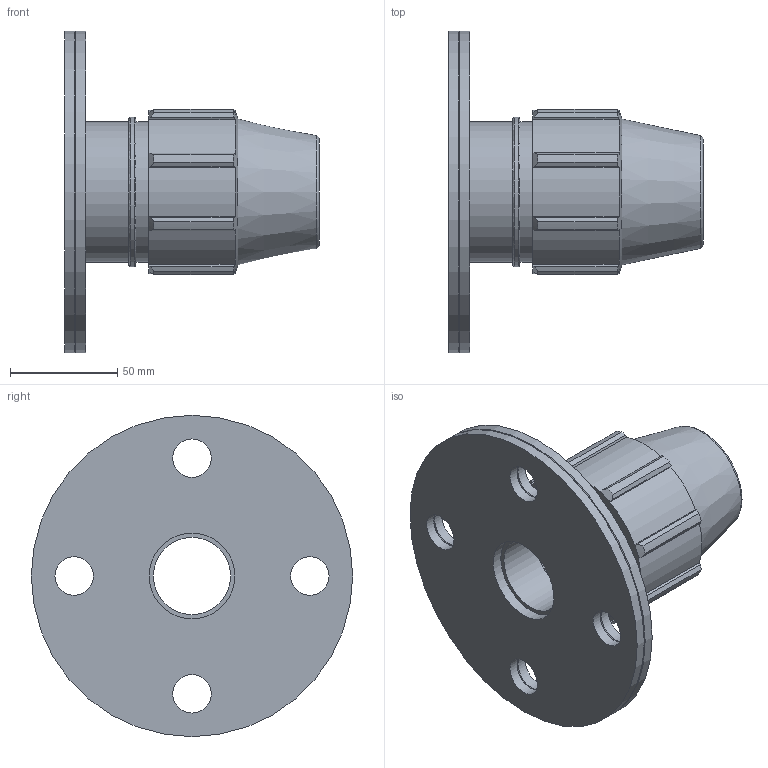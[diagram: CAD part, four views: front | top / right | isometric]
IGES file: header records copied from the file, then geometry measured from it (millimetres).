
Global section: file name: 072200040015__0722060400150A.ipt; native system: Autodesk Inventor 2015; preprocessor: unknown; author: KIM; date: 20170606.172334; units: millimetre
Bounding box: 119 x 150 x 150 mm (x, y, z)
Volume: 417822.8 mm3; surface area: 81814.9 mm2
Topology: 1 solids, 1 shells, 100 faces, 286 edges, 195 vertices
Faces by surface type: plane 41, revolution 26, cylinder 21, cone 12
Full cylindrical faces by diameter (mm): 65.6 x2, 69.7 x1, 150 x2
